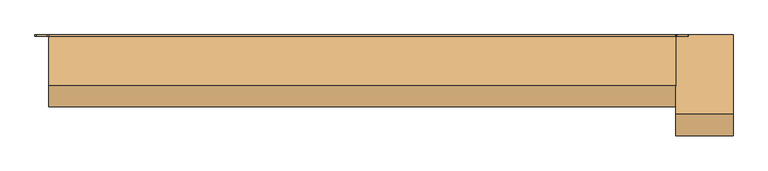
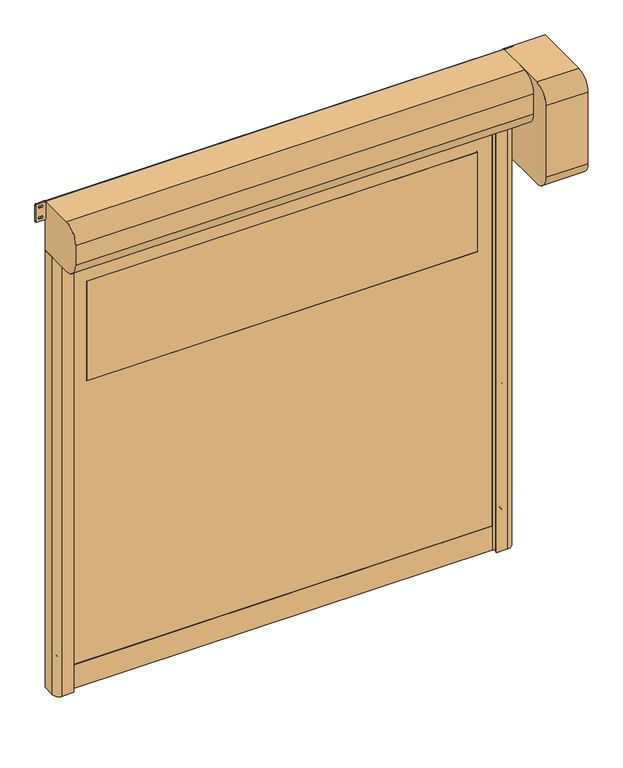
"""IFC4 building model written with IfcOpenShell, lengths in millimetres: door geometry, DO_WPB_Dynamicroll_BMP : Dynamicroll Food Inox."""

from ifc_helpers import new_model, si_unit, point, frame, frame_2d, origin, origin_with_axes, place, context, project, spatial, polyline, circle_curve, trimmed, segment, composite_curve, outline, extrude, source, transform, mapped, element, save


def door_978dc10a(model_context):
    return source(origin(), model_context, "Body", "SweptSolid", [
        extrude(outline(composite_curve([segment(trimmed(circle_curve(frame_2d((1416.6666667, 1048.5)), 6.0), [point((1422.6666667, 1048.5))], [point((1410.6666667, 1048.5))], False, "CARTESIAN"), True, "CONTINUOUS"), segment(polyline([(1410.6666667, 1048.5), (1410.6666667, 1066.5)]), True, "CONTINUOUS"), segment(trimmed(circle_curve(frame_2d((1416.6666667, 1066.5)), 6.0), [point((1410.6666667, 1066.5))], [point((1422.6666667, 1066.5))], False, "CARTESIAN"), True, "CONTINUOUS"), segment(polyline([(1422.6666667, 1066.5), (1422.6666667, 1048.5)]), True, "CONTINUOUS")], self_intersect=False)), frame((0.0, -20.0, 0.0), z_axis=(0.0, 1.0, 0.0), x_axis=(0.0, 0.0, 1.0)), (0.0, 0.0, 1.0), 20.0),
        extrude(outline(composite_curve([segment(trimmed(circle_curve(frame_2d((783.3333333, 1048.5)), 6.0), [point((789.3333333, 1048.5))], [point((777.3333333, 1048.5))], False, "CARTESIAN"), True, "CONTINUOUS"), segment(polyline([(777.3333333, 1048.5), (777.3333333, 1066.5)]), True, "CONTINUOUS"), segment(trimmed(circle_curve(frame_2d((783.3333333, 1066.5)), 6.0), [point((777.3333333, 1066.5))], [point((789.3333333, 1066.5))], False, "CARTESIAN"), True, "CONTINUOUS"), segment(polyline([(789.3333333, 1066.5), (789.3333333, 1048.5)]), True, "CONTINUOUS")], self_intersect=False)), frame((0.0, -20.0, 0.0), z_axis=(0.0, 1.0, 0.0), x_axis=(0.0, 0.0, 1.0)), (0.0, 0.0, 1.0), 20.0),
        extrude(outline(composite_curve([segment(trimmed(circle_curve(frame_2d((2050.0, 1048.5)), 6.0), [point((2056.0, 1048.5))], [point((2044.0, 1048.5))], False, "CARTESIAN"), True, "CONTINUOUS"), segment(polyline([(2044.0, 1048.5), (2044.0, 1066.5)]), True, "CONTINUOUS"), segment(trimmed(circle_curve(frame_2d((2050.0, 1066.5)), 6.0), [point((2044.0, 1066.5))], [point((2056.0, 1066.5))], False, "CARTESIAN"), True, "CONTINUOUS"), segment(polyline([(2056.0, 1066.5), (2056.0, 1048.5)]), True, "CONTINUOUS")], self_intersect=False)), frame((0.0, -20.0, 0.0), z_axis=(0.0, 1.0, 0.0), x_axis=(0.0, 0.0, 1.0)), (0.0, 0.0, 1.0), 20.0),
        extrude(outline(composite_curve([segment(trimmed(circle_curve(frame_2d((150.0, 1048.5)), 6.0), [point((156.0, 1048.5))], [point((144.0, 1048.5))], False, "CARTESIAN"), True, "CONTINUOUS"), segment(polyline([(144.0, 1048.5), (144.0, 1066.5)]), True, "CONTINUOUS"), segment(trimmed(circle_curve(frame_2d((150.0, 1066.5)), 6.0), [point((144.0, 1066.5))], [point((156.0, 1066.5))], False, "CARTESIAN"), True, "CONTINUOUS"), segment(polyline([(156.0, 1066.5), (156.0, 1048.5)]), True, "CONTINUOUS")], self_intersect=False)), frame((0.0, -20.0, 0.0), z_axis=(0.0, 1.0, 0.0), x_axis=(0.0, 0.0, 1.0)), (0.0, 0.0, 1.0), 20.0),
        extrude(outline(composite_curve([segment(polyline([(1422.6666667, -1048.5), (1422.6666667, -1066.5)]), True, "CONTINUOUS"), segment(trimmed(circle_curve(frame_2d((1416.6666667, -1066.5)), 6.0), [point((1422.6666667, -1066.5))], [point((1410.6666667, -1066.5))], False, "CARTESIAN"), True, "CONTINUOUS"), segment(polyline([(1410.6666667, -1066.5), (1410.6666667, -1048.5)]), True, "CONTINUOUS"), segment(trimmed(circle_curve(frame_2d((1416.6666667, -1048.5)), 6.0), [point((1410.6666667, -1048.5))], [point((1422.6666667, -1048.5))], False, "CARTESIAN"), True, "CONTINUOUS")], self_intersect=False)), frame((0.0, -20.0, 0.0), z_axis=(0.0, 1.0, 0.0), x_axis=(0.0, 0.0, 1.0)), (0.0, 0.0, 1.0), 20.0),
        extrude(outline(composite_curve([segment(polyline([(789.3333333, -1048.5), (789.3333333, -1066.5)]), True, "CONTINUOUS"), segment(trimmed(circle_curve(frame_2d((783.3333333, -1066.5)), 6.0), [point((789.3333333, -1066.5))], [point((777.3333333, -1066.5))], False, "CARTESIAN"), True, "CONTINUOUS"), segment(polyline([(777.3333333, -1066.5), (777.3333333, -1048.5)]), True, "CONTINUOUS"), segment(trimmed(circle_curve(frame_2d((783.3333333, -1048.5)), 6.0), [point((777.3333333, -1048.5))], [point((789.3333333, -1048.5))], False, "CARTESIAN"), True, "CONTINUOUS")], self_intersect=False)), frame((0.0, -20.0, 0.0), z_axis=(0.0, 1.0, 0.0), x_axis=(0.0, 0.0, 1.0)), (0.0, 0.0, 1.0), 20.0),
        extrude(outline(composite_curve([segment(polyline([(2056.0, -1048.5), (2056.0, -1066.5)]), True, "CONTINUOUS"), segment(trimmed(circle_curve(frame_2d((2050.0, -1066.5)), 6.0), [point((2056.0, -1066.5))], [point((2044.0, -1066.5))], False, "CARTESIAN"), True, "CONTINUOUS"), segment(polyline([(2044.0, -1066.5), (2044.0, -1048.5)]), True, "CONTINUOUS"), segment(trimmed(circle_curve(frame_2d((2050.0, -1048.5)), 6.0), [point((2044.0, -1048.5))], [point((2056.0, -1048.5))], False, "CARTESIAN"), True, "CONTINUOUS")], self_intersect=False)), frame((0.0, -20.0, 0.0), z_axis=(0.0, 1.0, 0.0), x_axis=(0.0, 0.0, 1.0)), (0.0, 0.0, 1.0), 20.0),
        extrude(outline(composite_curve([segment(polyline([(156.0, -1048.5), (156.0, -1066.5)]), True, "CONTINUOUS"), segment(trimmed(circle_curve(frame_2d((150.0, -1066.5)), 6.0), [point((156.0, -1066.5))], [point((144.0, -1066.5))], False, "CARTESIAN"), True, "CONTINUOUS"), segment(polyline([(144.0, -1066.5), (144.0, -1048.5)]), True, "CONTINUOUS"), segment(trimmed(circle_curve(frame_2d((150.0, -1048.5)), 6.0), [point((144.0, -1048.5))], [point((156.0, -1048.5))], False, "CARTESIAN"), True, "CONTINUOUS")], self_intersect=False)), frame((0.0, -20.0, 0.0), z_axis=(0.0, 1.0, 0.0), x_axis=(0.0, 0.0, 1.0)), (0.0, 0.0, 1.0), 20.0),
        extrude(outline(composite_curve([segment(trimmed(circle_curve(frame_2d((1526.0, 929.0)), 1.0), [point((1525.0, 929.0))], [point((1526.0, 930.0))], False, "CARTESIAN"), True, "CONTINUOUS"), segment(polyline([(1526.0, 930.0), (2024.0, 930.0)]), True, "CONTINUOUS"), segment(trimmed(circle_curve(frame_2d((2024.0, 929.0)), 1.0), [point((2024.0, 930.0))], [point((2025.0, 929.0))], False, "CARTESIAN"), True, "CONTINUOUS"), segment(polyline([(2025.0, 929.0), (2025.0, -929.0)]), True, "CONTINUOUS"), segment(trimmed(circle_curve(frame_2d((2024.0, -929.0)), 1.0), [point((2025.0, -929.0))], [point((2024.0, -930.0))], False, "CARTESIAN"), True, "CONTINUOUS"), segment(polyline([(2024.0, -930.0), (1526.0, -930.0)]), True, "CONTINUOUS"), segment(trimmed(circle_curve(frame_2d((1526.0, -929.0)), 1.0), [point((1526.0, -930.0))], [point((1525.0, -929.0))], False, "CARTESIAN"), True, "CONTINUOUS"), segment(polyline([(1525.0, -929.0), (1525.0, 929.0)]), True, "CONTINUOUS")], self_intersect=False)), frame((0.0, -63.5, 0.0), z_axis=(0.0, 1.0, 0.0), x_axis=(0.0, 0.0, 1.0)), (0.0, 0.0, 1.0), 7.0),
        extrude(outline(polyline([(120.0, -1012.0), (120.0, 1012.0), (2325.0, 1012.0), (2325.0, -1012.0), (120.0, -1012.0)]), holes=[composite_curve([segment(trimmed(circle_curve(frame_2d((1526.0, 929.0)), 1.0), [point((1526.0, 930.0))], [point((1525.0, 929.0))], True, "CARTESIAN"), True, "CONTINUOUS"), segment(polyline([(1525.0, 929.0), (1525.0, -929.0)]), True, "CONTINUOUS"), segment(trimmed(circle_curve(frame_2d((1526.0, -929.0)), 1.0), [point((1525.0, -929.0))], [point((1526.0, -930.0))], True, "CARTESIAN"), True, "CONTINUOUS"), segment(polyline([(1526.0, -930.0), (2024.0, -930.0)]), True, "CONTINUOUS"), segment(trimmed(circle_curve(frame_2d((2024.0, -929.0)), 1.0), [point((2024.0, -930.0))], [point((2025.0, -929.0))], True, "CARTESIAN"), True, "CONTINUOUS"), segment(polyline([(2025.0, -929.0), (2025.0, 929.0)]), True, "CONTINUOUS"), segment(trimmed(circle_curve(frame_2d((2024.0, 929.0)), 1.0), [point((2025.0, 929.0))], [point((2024.0, 930.0))], True, "CARTESIAN"), True, "CONTINUOUS"), segment(polyline([(2024.0, 930.0), (1526.0, 930.0)]), True, "CONTINUOUS")], self_intersect=False)]), frame((0.0, -63.5, 0.0), z_axis=(0.0, 1.0, 0.0), x_axis=(0.0, 0.0, 1.0)), (0.0, 0.0, 1.0), 7.0),
        extrude(outline(polyline([(-1012.0, -54.5), (1012.0, -54.5), (1012.0, -65.5), (-1012.0, -65.5), (-1012.0, -54.5)])), origin_with_axes(), (0.0, 0.0, 1.0), 120.0),
        extrude(outline(composite_curve([segment(polyline([(-1090.0, 0.0), (-1015.0, 0.0), (-1015.0, -44.2857143), (-1035.0, -50.0), (-1000.0, -50.0), (-1000.0, -56.5), (-1020.0, -56.5), (-1020.0, -63.5), (-1000.0, -63.5), (-1000.0, -70.0), (-1035.0, -70.0), (-1035.0, -85.0), (-1005.0, -85.0), (-1005.0, -90.0), (-1060.0, -90.0)]), True, "CONTINUOUS"), segment(trimmed(circle_curve(frame_2d((-1060.0, -60.0)), 30.0), [point((-1060.0, -90.0))], [point((-1090.0, -60.0))], False, "CARTESIAN"), True, "CONTINUOUS"), segment(polyline([(-1090.0, -60.0), (-1090.0, 0.0)]), True, "CONTINUOUS")], self_intersect=False)), origin_with_axes(), (0.0, 0.0, 1.0), 2200.0),
        extrude(outline(composite_curve([segment(polyline([(1090.0, 0.0), (1090.0, -60.0)]), True, "CONTINUOUS"), segment(trimmed(circle_curve(frame_2d((1060.0, -60.0)), 30.0), [point((1090.0, -60.0))], [point((1060.0, -90.0))], False, "CARTESIAN"), True, "CONTINUOUS"), segment(polyline([(1060.0, -90.0), (1005.0, -90.0), (1005.0, -85.0), (1035.0, -85.0), (1035.0, -70.0), (1000.0, -70.0), (1000.0, -63.5), (1020.0, -63.5), (1020.0, -56.5), (1000.0, -56.5), (1000.0, -50.0), (1035.0, -50.0), (1015.0, -44.2857143), (1015.0, 0.0), (1090.0, 0.0)]), True, "CONTINUOUS")], self_intersect=False)), origin_with_axes(), (0.0, 0.0, 1.0), 2200.0),
        extrude(outline(composite_curve([segment(trimmed(circle_curve(frame_2d((2363.75, -1133.25)), 5.75), [point((2363.75, -1139.0))], [point((2358.0, -1133.25))], False, "CARTESIAN"), True, "CONTINUOUS"), segment(polyline([(2358.0, -1133.25), (2358.0, -1095.75)]), True, "CONTINUOUS"), segment(trimmed(circle_curve(frame_2d((2363.75, -1095.75)), 5.75), [point((2358.0, -1095.75))], [point((2363.75, -1090.0))], False, "CARTESIAN"), True, "CONTINUOUS"), segment(polyline([(2363.75, -1090.0), (2444.25, -1090.0)]), True, "CONTINUOUS"), segment(trimmed(circle_curve(frame_2d((2444.25, -1095.75)), 5.75), [point((2444.25, -1090.0))], [point((2450.0, -1095.75))], False, "CARTESIAN"), True, "CONTINUOUS"), segment(polyline([(2450.0, -1095.75), (2450.0, -1133.25)]), True, "CONTINUOUS"), segment(trimmed(circle_curve(frame_2d((2444.25, -1133.25)), 5.75), [point((2450.0, -1133.25))], [point((2444.25, -1139.0))], False, "CARTESIAN"), True, "CONTINUOUS"), segment(polyline([(2444.25, -1139.0), (2363.75, -1139.0)]), True, "CONTINUOUS")], self_intersect=False), holes=[composite_curve([segment(trimmed(circle_curve(frame_2d((2431.5, -1110.25)), 5.75), [point((2437.25, -1110.25))], [point((2425.75, -1110.25))], True, "CARTESIAN"), True, "CONTINUOUS"), segment(polyline([(2425.75, -1110.25), (2425.75, -1118.75)]), True, "CONTINUOUS"), segment(trimmed(circle_curve(frame_2d((2431.5, -1118.75)), 5.75), [point((2425.75, -1118.75))], [point((2437.25, -1118.75))], True, "CARTESIAN"), True, "CONTINUOUS"), segment(polyline([(2437.25, -1118.75), (2437.25, -1110.25)]), True, "CONTINUOUS")], self_intersect=False), composite_curve([segment(trimmed(circle_curve(frame_2d((2376.5, -1110.25)), 5.75), [point((2382.25, -1110.25))], [point((2370.75, -1110.25))], True, "CARTESIAN"), True, "CONTINUOUS"), segment(polyline([(2370.75, -1110.25), (2370.75, -1118.75)]), True, "CONTINUOUS"), segment(trimmed(circle_curve(frame_2d((2376.5, -1118.75)), 5.75), [point((2370.75, -1118.75))], [point((2382.25, -1118.75))], True, "CARTESIAN"), True, "CONTINUOUS"), segment(polyline([(2382.25, -1118.75), (2382.25, -1110.25)]), True, "CONTINUOUS")], self_intersect=False)]), frame((0.0, -5.0, 0.0), z_axis=(0.0, 1.0, 0.0), x_axis=(0.0, 0.0, 1.0)), (0.0, 0.0, 1.0), 5.0),
        extrude(outline(composite_curve([segment(trimmed(circle_curve(frame_2d((2363.75, 1095.75)), 5.75), [point((2363.75, 1090.0))], [point((2358.0, 1095.75))], False, "CARTESIAN"), True, "CONTINUOUS"), segment(polyline([(2358.0, 1095.75), (2358.0, 1133.25)]), True, "CONTINUOUS"), segment(trimmed(circle_curve(frame_2d((2363.75, 1133.25)), 5.75), [point((2358.0, 1133.25))], [point((2363.75, 1139.0))], False, "CARTESIAN"), True, "CONTINUOUS"), segment(polyline([(2363.75, 1139.0), (2444.25, 1139.0)]), True, "CONTINUOUS"), segment(trimmed(circle_curve(frame_2d((2444.25, 1133.25)), 5.75), [point((2444.25, 1139.0))], [point((2450.0, 1133.25))], False, "CARTESIAN"), True, "CONTINUOUS"), segment(polyline([(2450.0, 1133.25), (2450.0, 1095.75)]), True, "CONTINUOUS"), segment(trimmed(circle_curve(frame_2d((2444.25, 1095.75)), 5.75), [point((2450.0, 1095.75))], [point((2444.25, 1090.0))], False, "CARTESIAN"), True, "CONTINUOUS"), segment(polyline([(2444.25, 1090.0), (2363.75, 1090.0)]), True, "CONTINUOUS")], self_intersect=False), holes=[composite_curve([segment(trimmed(circle_curve(frame_2d((2431.5, 1118.75)), 5.75), [point((2437.25, 1118.75))], [point((2425.75, 1118.75))], True, "CARTESIAN"), True, "CONTINUOUS"), segment(polyline([(2425.75, 1118.75), (2425.75, 1110.25)]), True, "CONTINUOUS"), segment(trimmed(circle_curve(frame_2d((2431.5, 1110.25)), 5.75), [point((2425.75, 1110.25))], [point((2437.25, 1110.25))], True, "CARTESIAN"), True, "CONTINUOUS"), segment(polyline([(2437.25, 1110.25), (2437.25, 1118.75)]), True, "CONTINUOUS")], self_intersect=False), composite_curve([segment(trimmed(circle_curve(frame_2d((2376.5, 1118.75)), 5.75), [point((2382.25, 1118.75))], [point((2370.75, 1118.75))], True, "CARTESIAN"), True, "CONTINUOUS"), segment(polyline([(2370.75, 1118.75), (2370.75, 1110.25)]), True, "CONTINUOUS"), segment(trimmed(circle_curve(frame_2d((2376.5, 1110.25)), 5.75), [point((2370.75, 1110.25))], [point((2382.25, 1110.25))], True, "CARTESIAN"), True, "CONTINUOUS"), segment(polyline([(2382.25, 1110.25), (2382.25, 1118.75)]), True, "CONTINUOUS")], self_intersect=False)]), frame((0.0, -5.0, 0.0), z_axis=(0.0, 1.0, 0.0), x_axis=(0.0, 0.0, 1.0)), (0.0, 0.0, 1.0), 5.0),
        extrude(outline(composite_curve([segment(trimmed(circle_curve(frame_2d((-5.0, 2205.0)), 5.0), [point((0.0, 2205.0))], [point((-5.0, 2200.0))], False, "CARTESIAN"), True, "CONTINUOUS"), segment(polyline([(-5.0, 2200.0), (-175.0, 2200.0)]), True, "CONTINUOUS"), segment(trimmed(circle_curve(frame_2d((-175.0, 2275.0)), 75.0), [point((-175.0, 2200.0))], [point((-250.0, 2275.0))], False, "CARTESIAN"), True, "CONTINUOUS"), segment(polyline([(-250.0, 2275.0), (-250.0, 2375.0)]), True, "CONTINUOUS"), segment(trimmed(circle_curve(frame_2d((-175.0, 2375.0)), 75.0), [point((-250.0, 2375.0))], [point((-175.0, 2450.0))], False, "CARTESIAN"), True, "CONTINUOUS"), segment(polyline([(-175.0, 2450.0), (-5.0, 2450.0)]), True, "CONTINUOUS"), segment(trimmed(circle_curve(frame_2d((-5.0, 2445.0)), 5.0), [point((-5.0, 2450.0))], [point((0.0, 2445.0))], False, "CARTESIAN"), True, "CONTINUOUS"), segment(polyline([(0.0, 2445.0), (0.0, 2205.0)]), True, "CONTINUOUS")], self_intersect=False)), frame((-1090.0, 0.0, 0.0), z_axis=(1.0, 0.0, 0.0), x_axis=(0.0, 1.0, 0.0)), (0.0, 0.0, 1.0), 2180.0),
        extrude(outline(composite_curve([segment(polyline([(0.0, 2450.0), (0.0, 1940.0), (-275.0, 1940.0)]), True, "CONTINUOUS"), segment(trimmed(circle_curve(frame_2d((-275.0, 2015.0)), 75.0), [point((-275.0, 1940.0))], [point((-350.0, 2015.0))], False, "CARTESIAN"), True, "CONTINUOUS"), segment(polyline([(-350.0, 2015.0), (-350.0, 2375.0)]), True, "CONTINUOUS"), segment(trimmed(circle_curve(frame_2d((-275.0, 2375.0)), 75.0), [point((-350.0, 2375.0))], [point((-275.0, 2450.0))], False, "CARTESIAN"), True, "CONTINUOUS"), segment(polyline([(-275.0, 2450.0), (0.0, 2450.0)]), True, "CONTINUOUS")], self_intersect=False)), frame((1090.0, 0.0, 0.0), z_axis=(1.0, 0.0, 0.0), x_axis=(0.0, 1.0, 0.0)), (0.0, 0.0, 1.0), 200.0),
    ])


if __name__ == "__main__":
    model = new_model("IFC4")
    model_context = context("Model", 3, world=origin())
    ifc_project = project(units=[si_unit("LENGTHUNIT", "METRE", prefix="MILLI")], contexts=[model_context])
    site = spatial("IfcSite", under=ifc_project)
    building = spatial("IfcBuilding", under=site)
    placement = place(None, origin())
    door_shape = door_978dc10a(model_context)
    element("IfcDoor", 1, ObjectType="DO_WPB_Dynamicroll_BMP : Dynamicroll Food Inox", at=placement, inside=building, context=model_context, shape_type="MappedRepresentation", body=[
        mapped(door_shape, transform((0.0, 0.0, 0.0), x_axis=(1.0, 0.0, 0.0), y_axis=(0.0, 1.0, 0.0), z_axis=(0.0, 0.0, 1.0))),
    ])
    save(model, "model.ifc")
